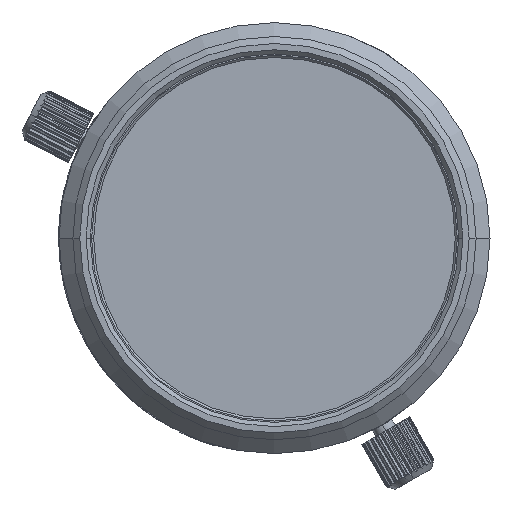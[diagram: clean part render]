
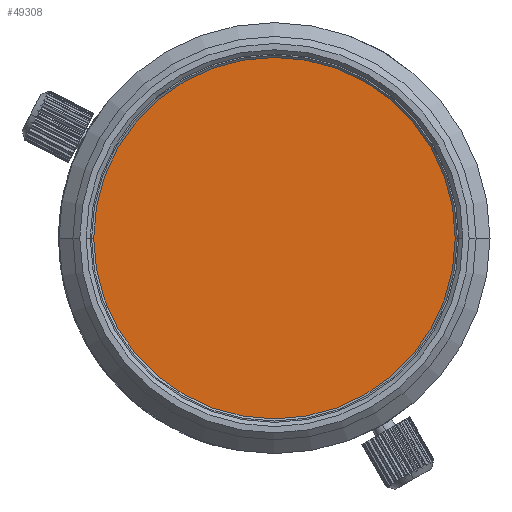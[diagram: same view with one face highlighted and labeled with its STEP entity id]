
A CAD part, left-side view. The second image highlights one B-rep face of the part: STEP entity #49308.
In plain terms, the highlighted planar face has unit normal (-1, 0, 0).
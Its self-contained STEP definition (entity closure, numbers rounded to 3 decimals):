
#16566=CARTESIAN_POINT('',(-3.06,0.,0.));
#16567=DIRECTION('',(1.,0.,0.));
#16568=DIRECTION('',(0.,-1.,0.));
#16569=AXIS2_PLACEMENT_3D('',#16566,#16567,#16568);
#16571=CARTESIAN_POINT('',(-3.06,0.,0.));
#16572=DIRECTION('',(1.,0.,0.));
#16573=DIRECTION('',(0.,0.,-1.));
#16574=AXIS2_PLACEMENT_3D('',#16571,#16572,#16573);
#16576=CARTESIAN_POINT('',(-3.06,0.,0.));
#16577=DIRECTION('',(1.,0.,0.));
#16578=DIRECTION('',(0.,1.,0.));
#16579=AXIS2_PLACEMENT_3D('',#16576,#16577,#16578);
#16581=CARTESIAN_POINT('',(-3.06,0.,0.));
#16582=DIRECTION('',(1.,0.,0.));
#16583=DIRECTION('',(0.,0.,1.));
#16584=AXIS2_PLACEMENT_3D('',#16581,#16582,#16583);
#19982=CARTESIAN_POINT('',(-3.06,13.15,0.));
#19983=CARTESIAN_POINT('',(-3.06,0.,13.15));
#19984=VERTEX_POINT('',#19982);
#19985=VERTEX_POINT('',#19983);
#19986=CARTESIAN_POINT('',(-3.06,-13.15,0.));
#19987=VERTEX_POINT('',#19986);
#19988=CARTESIAN_POINT('',(-3.06,0.,-13.15));
#19989=VERTEX_POINT('',#19988);
#49295=CARTESIAN_POINT('',(-3.06,0.,0.));
#49296=DIRECTION('',(-1.,0.,0.));
#49297=DIRECTION('',(0.,1.,0.));
#49298=AXIS2_PLACEMENT_3D('',#49295,#49296,#49297);
#49299=PLANE('',#49298);
#49301=ORIENTED_EDGE('',*,*,#49300,.T.);
#49303=ORIENTED_EDGE('',*,*,#49302,.T.);
#49304=ORIENTED_EDGE('',*,*,#49284,.T.);
#49305=ORIENTED_EDGE('',*,*,#49282,.T.);
#49306=EDGE_LOOP('',(#49301,#49303,#49304,#49305));
#49307=FACE_OUTER_BOUND('',#49306,.F.);
#16570=CIRCLE('',#16569,13.15);
#16575=CIRCLE('',#16574,13.15);
#16580=CIRCLE('',#16579,13.15);
#16585=CIRCLE('',#16584,13.15);
#49282=EDGE_CURVE('',#19985,#19987,#16585,.T.);
#49284=EDGE_CURVE('',#19984,#19985,#16580,.T.);
#49300=EDGE_CURVE('',#19987,#19989,#16570,.T.);
#49302=EDGE_CURVE('',#19989,#19984,#16575,.T.);
#49308=ADVANCED_FACE('',(#49307),#49299,.T.);
